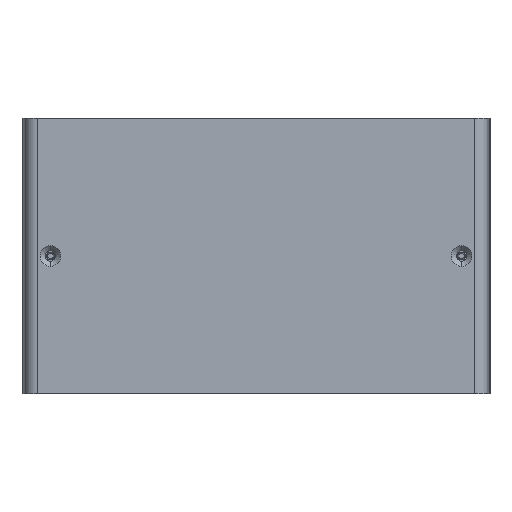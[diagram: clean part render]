
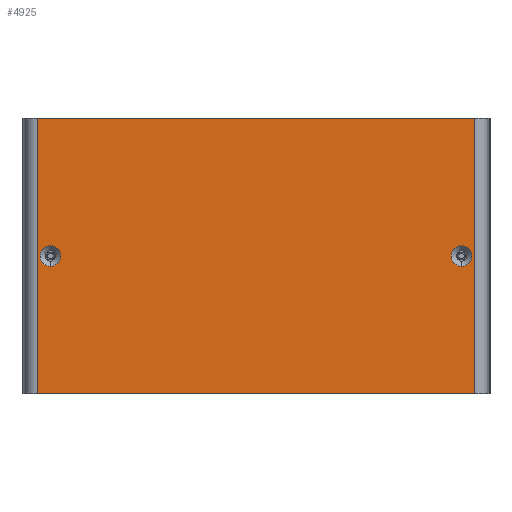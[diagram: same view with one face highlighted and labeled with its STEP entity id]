
A CAD part, front view. The second image highlights one B-rep face of the part: STEP entity #4925.
In plain terms, the highlighted planar face has unit normal (0, -1, 0).
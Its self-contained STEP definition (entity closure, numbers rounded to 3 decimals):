
#201 = DIRECTION ( 'NONE',  ( 1., 0., 0. ) ) ;
#289 = EDGE_LOOP ( 'NONE', ( #7393, #5041, #981, #1285 ) ) ;
#386 = DIRECTION ( 'NONE',  ( 0., -1., 0. ) ) ;
#638 = VERTEX_POINT ( 'NONE', #3967 ) ;
#640 = VERTEX_POINT ( 'NONE', #5265 ) ;
#870 = CARTESIAN_POINT ( 'NONE',  ( -67.374, 0., -42.5 ) ) ;
#981 = ORIENTED_EDGE ( 'NONE', *, *, #5441, .T. ) ;
#1137 = CARTESIAN_POINT ( 'NONE',  ( 67.374, 0., 42.5 ) ) ;
#1285 = ORIENTED_EDGE ( 'NONE', *, *, #2440, .T. ) ;
#1502 = LINE ( 'NONE', #870, #5346 ) ;
#1618 = AXIS2_PLACEMENT_3D ( 'NONE', #2536, #386, #5854 ) ;
#1684 = LINE ( 'NONE', #8086, #2192 ) ;
#1796 = VERTEX_POINT ( 'NONE', #6728 ) ;
#1847 = DIRECTION ( 'NONE',  ( 0., -1., 0. ) ) ;
#1873 = VERTEX_POINT ( 'NONE', #7334 ) ;
#1997 = DIRECTION ( 'NONE',  ( 1., 0., 0. ) ) ;
#2192 = VECTOR ( 'NONE', #4307, 1000. ) ;
#2383 = FACE_BOUND ( 'NONE', #2569, .T. ) ;
#2404 = DIRECTION ( 'NONE',  ( 1., 0., 0. ) ) ;
#2431 = EDGE_CURVE ( 'NONE', #6209, #3558, #7538, .T. ) ;
#2440 = EDGE_CURVE ( 'NONE', #5563, #3558, #1684, .T. ) ;
#2442 = VECTOR ( 'NONE', #201, 1000. ) ;
#2520 = EDGE_CURVE ( 'NONE', #7436, #640, #7831, .T. ) ;
#2536 = CARTESIAN_POINT ( 'NONE',  ( 0., 0., -42.5 ) ) ;
#2569 = EDGE_LOOP ( 'NONE', ( #4807, #5149 ) ) ;
#2724 = EDGE_LOOP ( 'NONE', ( #4600, #6569 ) ) ;
#2886 = CARTESIAN_POINT ( 'NONE',  ( 67.374, 0., -42.5 ) ) ;
#2908 = DIRECTION ( 'NONE',  ( 1., 0., 0. ) ) ;
#2925 = EDGE_CURVE ( 'NONE', #6209, #638, #1502, .T. ) ;
#2959 = CARTESIAN_POINT ( 'NONE',  ( 0., 0., 42.5 ) ) ;
#3012 = VECTOR ( 'NONE', #8209, 1000. ) ;
#3449 = LINE ( 'NONE', #6083, #2442 ) ;
#3558 = VERTEX_POINT ( 'NONE', #1137 ) ;
#3605 = DIRECTION ( 'NONE',  ( 0., 0., -1. ) ) ;
#3967 = CARTESIAN_POINT ( 'NONE',  ( -67.374, 0., -42.5 ) ) ;
#4212 = CIRCLE ( 'NONE', #5307, 3.2 ) ;
#4307 = DIRECTION ( 'NONE',  ( 0., 0., 1. ) ) ;
#4600 = ORIENTED_EDGE ( 'NONE', *, *, #2520, .F. ) ;
#4749 = AXIS2_PLACEMENT_3D ( 'NONE', #7216, #7889, #1997 ) ;
#4807 = ORIENTED_EDGE ( 'NONE', *, *, #6460, .F. ) ;
#4812 = DIRECTION ( 'NONE',  ( 0., -1., 0. ) ) ;
#4925 = ADVANCED_FACE ( 'NONE', ( #2383, #8265, #6910 ), #7878, .T. ) ;
#5027 = DIRECTION ( 'NONE',  ( 0., -1., 0. ) ) ;
#5041 = ORIENTED_EDGE ( 'NONE', *, *, #2925, .T. ) ;
#5149 = ORIENTED_EDGE ( 'NONE', *, *, #7234, .F. ) ;
#5243 = DIRECTION ( 'NONE',  ( 1., 0., 0. ) ) ;
#5265 = CARTESIAN_POINT ( 'NONE',  ( 60.15, 0., 0. ) ) ;
#5307 = AXIS2_PLACEMENT_3D ( 'NONE', #8278, #5027, #5243 ) ;
#5346 = VECTOR ( 'NONE', #3605, 1000. ) ;
#5437 = CIRCLE ( 'NONE', #4749, 3.2 ) ;
#5441 = EDGE_CURVE ( 'NONE', #638, #5563, #3449, .T. ) ;
#5563 = VERTEX_POINT ( 'NONE', #2886 ) ;
#5586 = CIRCLE ( 'NONE', #7110, 3.2 ) ;
#5854 = DIRECTION ( 'NONE',  ( 1., 0., 0. ) ) ;
#6083 = CARTESIAN_POINT ( 'NONE',  ( 0., 0., -42.5 ) ) ;
#6209 = VERTEX_POINT ( 'NONE', #6583 ) ;
#6460 = EDGE_CURVE ( 'NONE', #1796, #1873, #5586, .T. ) ;
#6569 = ORIENTED_EDGE ( 'NONE', *, *, #7454, .F. ) ;
#6583 = CARTESIAN_POINT ( 'NONE',  ( -67.374, 0., 42.5 ) ) ;
#6728 = CARTESIAN_POINT ( 'NONE',  ( -60.15, 0., 0. ) ) ;
#6910 = FACE_OUTER_BOUND ( 'NONE', #289, .T. ) ;
#7053 = CARTESIAN_POINT ( 'NONE',  ( 66.55, 0., 0. ) ) ;
#7110 = AXIS2_PLACEMENT_3D ( 'NONE', #7396, #4812, #2908 ) ;
#7155 = CARTESIAN_POINT ( 'NONE',  ( 63.35, 0., 0. ) ) ;
#7216 = CARTESIAN_POINT ( 'NONE',  ( -63.35, 0., 0. ) ) ;
#7234 = EDGE_CURVE ( 'NONE', #1873, #1796, #5437, .T. ) ;
#7334 = CARTESIAN_POINT ( 'NONE',  ( -66.55, 0., 0. ) ) ;
#7393 = ORIENTED_EDGE ( 'NONE', *, *, #2431, .F. ) ;
#7396 = CARTESIAN_POINT ( 'NONE',  ( -63.35, 0., 0. ) ) ;
#7436 = VERTEX_POINT ( 'NONE', #7053 ) ;
#7454 = EDGE_CURVE ( 'NONE', #640, #7436, #4212, .T. ) ;
#7538 = LINE ( 'NONE', #2959, #3012 ) ;
#7831 = CIRCLE ( 'NONE', #8369, 3.2 ) ;
#7878 = PLANE ( 'NONE',  #1618 ) ;
#7889 = DIRECTION ( 'NONE',  ( 0., -1., 0. ) ) ;
#8086 = CARTESIAN_POINT ( 'NONE',  ( 67.374, 0., -42.5 ) ) ;
#8209 = DIRECTION ( 'NONE',  ( 1., 0., 0. ) ) ;
#8265 = FACE_BOUND ( 'NONE', #2724, .T. ) ;
#8278 = CARTESIAN_POINT ( 'NONE',  ( 63.35, 0., 0. ) ) ;
#8369 = AXIS2_PLACEMENT_3D ( 'NONE', #7155, #1847, #2404 ) ;
